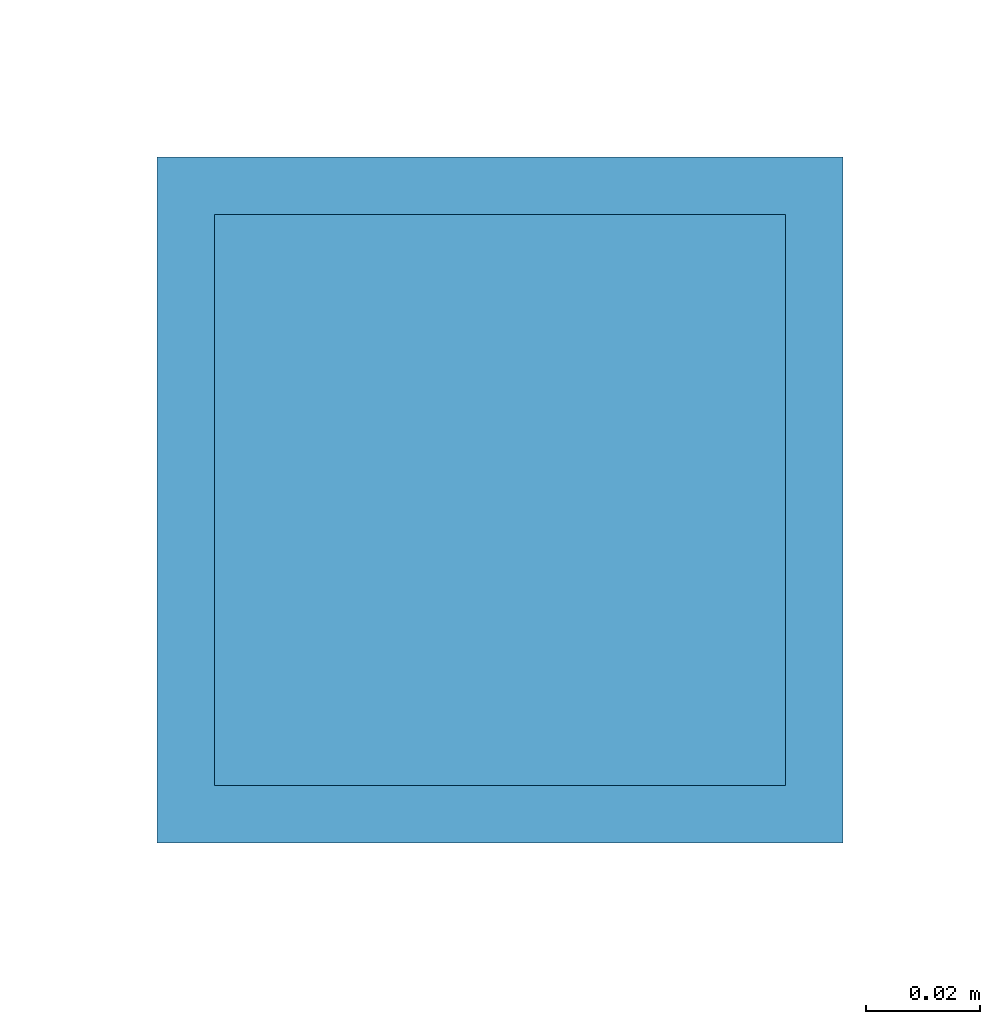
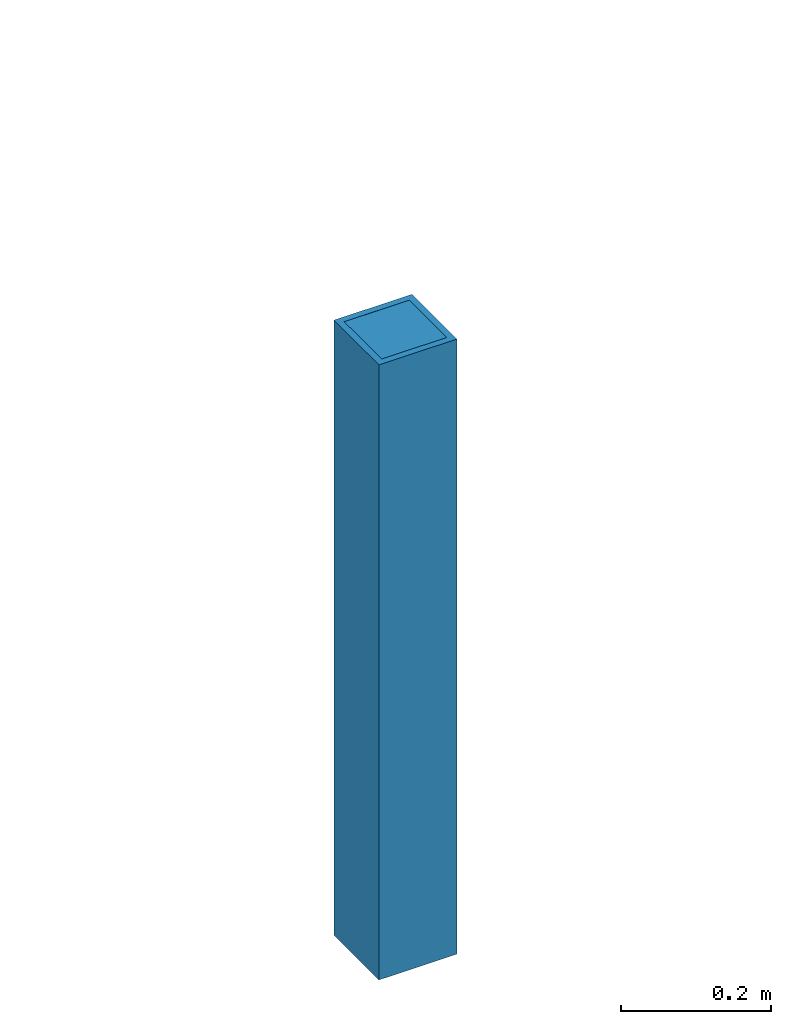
# One storey, part 26 of 127: 2 building element parts, 1 element without a shape of its own.
"""IFC2X3 building model written with IfcOpenShell, lengths in millimetres."""

from ifc_helpers import new_model, entity, si_unit, converted_unit, derived_unit, money_unit, direction, frame, origin_with_axes, origin_2d_with_axis, place, context, subcontext, project, spatial, rectangle, hollow_rectangle, extrude, clip, halfspace, material, type_object, element, aggregate, save


model = new_model("IFC2X3")

# Units and contexts
model_context = context("Model", 3, precision=1e-05, world=origin_with_axes(), true_north=direction((0.0, 1.0)))
body_context = subcontext(model_context, "Body", "Model", "MODEL_VIEW")
ifc_project = project(units=[si_unit("LENGTHUNIT", "METRE", prefix="MILLI"), si_unit("AREAUNIT", "SQUARE_METRE"), si_unit("VOLUMEUNIT", "CUBIC_METRE"), converted_unit("PLANEANGLEUNIT", "DEGREE", entity("IfcPlaneAngleMeasure", 0.0174532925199), si_unit("PLANEANGLEUNIT", "RADIAN"), dimensions=[0, 0, 0, 0, 0, 0, 0]), si_unit("SOLIDANGLEUNIT", "STERADIAN"), money_unit("EUR"), converted_unit("TIMEUNIT", "Year", entity("IfcTimeMeasure", 31556926.0), si_unit("TIMEUNIT", "SECOND"), dimensions=[0, 0, 1, 0, 0, 0, 0]), si_unit("MASSUNIT", "GRAM", prefix="KILO"), si_unit("THERMODYNAMICTEMPERATUREUNIT", "DEGREE_CELSIUS"), si_unit("LUMINOUSINTENSITYUNIT", "LUMEN"), si_unit("ENERGYUNIT", "JOULE", prefix="MEGA"), derived_unit("THERMALCONDUCTANCEUNIT", [(si_unit("POWERUNIT", "WATT"), 1), (si_unit("LENGTHUNIT", "METRE"), -1), (si_unit("THERMODYNAMICTEMPERATUREUNIT", "KELVIN"), -1)]), derived_unit("SPECIFICHEATCAPACITYUNIT", [(si_unit("ENERGYUNIT", "JOULE"), 1), (si_unit("MASSUNIT", "GRAM", prefix="KILO"), -1), (si_unit("THERMODYNAMICTEMPERATUREUNIT", "KELVIN"), -1)]), derived_unit("MASSDENSITYUNIT", [(si_unit("MASSUNIT", "GRAM", prefix="KILO"), 1), (si_unit("VOLUMEUNIT", "CUBIC_METRE"), -1)])], contexts=[model_context])

# Site, building, storey
site_placement = place(None, origin_with_axes())
site = spatial("IfcSite", under=ifc_project, at=site_placement, Name="Site", CompositionType="ELEMENT")
building_placement = place(site_placement, origin_with_axes())
building = spatial("IfcBuilding", under=site, at=building_placement, Name="Building", CompositionType="ELEMENT")
storey_placement = place(building_placement, origin_with_axes())
storey = spatial("IfcBuildingStorey", under=building, at=storey_placement, Name="1 KORRUS", CompositionType="ELEMENT", Elevation=0.0)

# Proxy, building element parts
building_element_proxy_type = type_object("IfcBuildingElementProxyType", Name="CRE - 012", PredefinedType="NOTDEFINED")
proxy_placement = place(storey_placement, frame((59.9999999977, 60.0000000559, 0.0), z_axis=(0.0, 0.0, 1.0), x_axis=(1.0, 0.0, 0.0)))
proxy = element("IfcBuildingElementProxy", 1, at=proxy_placement, inside=storey, type_object=building_element_proxy_type, Name="Betoon (1);  Objekti nimi:")
ifc_material_1 = material(Name="TELLIS SOOJUSTUSEGA")
building_element_part_1_placement = place(proxy_placement, origin_with_axes())
building_element_part_1 = element("IfcBuildingElementPart", 2, at=building_element_part_1_placement, material=ifc_material_1, Name="TELLIS SOOJUSTUSEGA", context=body_context, shape_type="Clipping", body=[
    clip(clip(extrude(hollow_rectangle(XDim=120.0, YDim=120.0, WallThickness=10.0, at=origin_2d_with_axis()), origin_with_axes(), (0.0, 0.0, 1.0), 1000.0), halfspace(frame((0.0, 0.0, 1000.0), z_axis=(0.0, 0.0, -1.0), x_axis=(0.0, 1.0, 0.0)), True)), halfspace(frame((0.0, 0.0, 0.0), z_axis=(0.0, 0.0, 1.0), x_axis=(0.0, -1.0, 0.0)), True)),
])
ifc_material_2 = material(Name="Betoon (1)")
building_element_part_2_placement = place(proxy_placement, origin_with_axes())
building_element_part_2 = element("IfcBuildingElementPart", 3, at=building_element_part_2_placement, material=ifc_material_2, Name="Betoon (1)", context=body_context, shape_type="Clipping", body=[
    clip(clip(extrude(rectangle(XDim=100.0, YDim=100.0, at=origin_2d_with_axis()), origin_with_axes(), (0.0, 0.0, 1.0), 1000.0), halfspace(frame((0.0, 0.0, 1000.0), z_axis=(0.0, 0.0, -1.0), x_axis=(0.0, 1.0, 0.0)), True)), halfspace(frame((0.0, 0.0, 0.0), z_axis=(0.0, 0.0, 1.0), x_axis=(0.0, -1.0, 0.0)), True)),
])
aggregate(proxy, [building_element_part_1, building_element_part_2])

save(model, "model.ifc")
